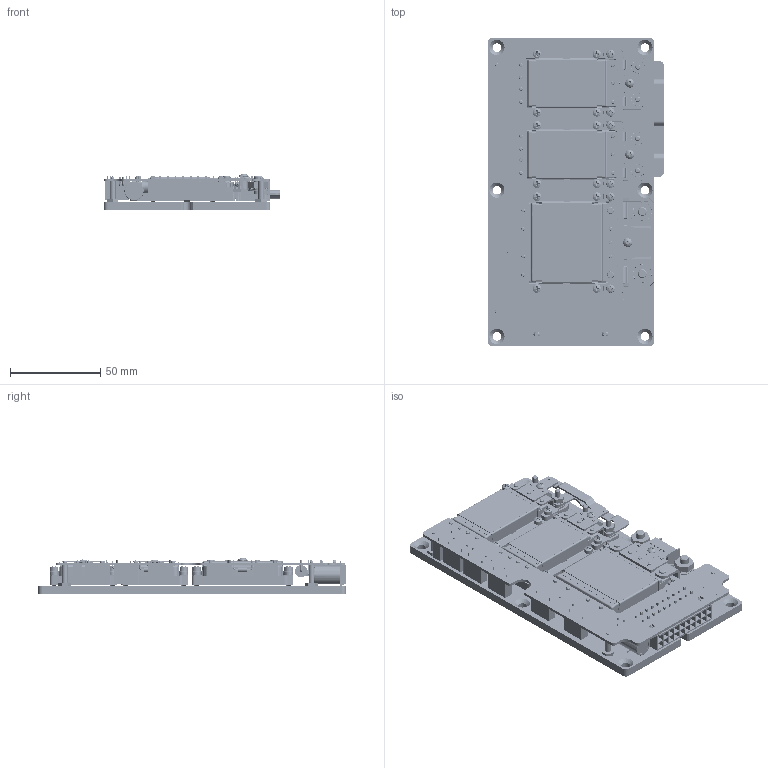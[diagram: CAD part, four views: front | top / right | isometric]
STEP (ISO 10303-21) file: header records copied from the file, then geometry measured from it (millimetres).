
FILE_DESCRIPTION (( 'STEP AP214' ), '1' );
FILE_NAME ('VA-B-LUG-2OUT.STEP', '2011-02-18T23:10:13', ( 'Vicor Employee' ), ( 'Vicor Corporation' ), 'SwSTEP 2.0', 'SolidWorks 2011', '' );
FILE_SCHEMA (( 'AUTOMOTIVE_DESIGN' ));
Length unit declared in the file: inch
Products named in the file (1): VA-B-LUG-2OUT
Bounding box: 97.88 x 170.51 x 20.26 mm (x, y, z)
Volume: 133924.7 mm3; surface area: 128154.9 mm2
Topology: 1 solids, 1 shells, 7205 faces, 19538 edges, 12521 vertices
Faces by surface type: plane 4044, cylinder 2042, bspline 573, cone 366, torus 90, sphere 90
Entity records: 350094 total; most frequent: CARTESIAN_POINT 78223, ORIENTED_EDGE 38980, DIRECTION 34955, EDGE_CURVE 19490, VERTEX_POINT 12521, VECTOR 12323, LINE 12323, AXIS2_PLACEMENT_3D 11316
